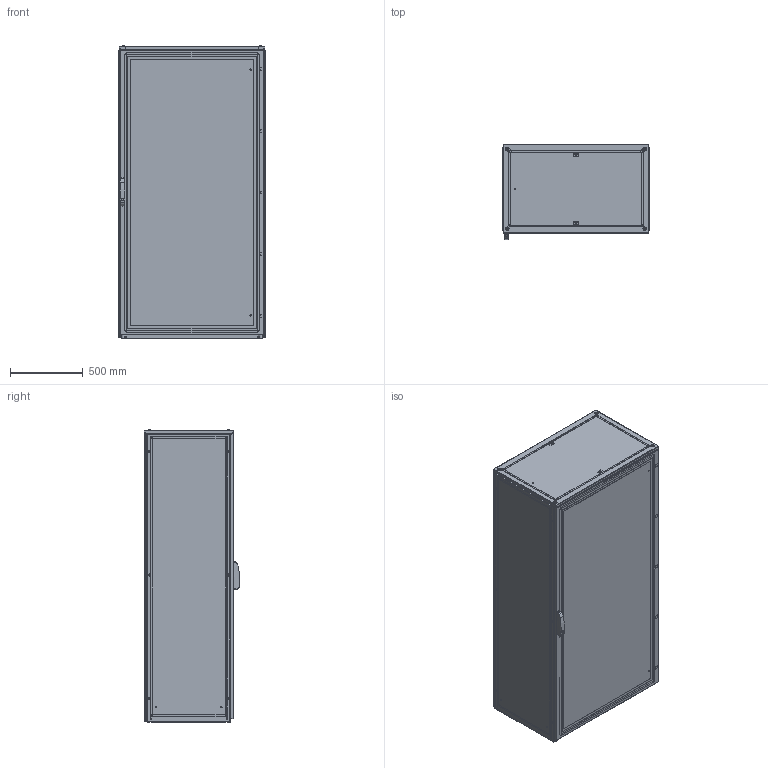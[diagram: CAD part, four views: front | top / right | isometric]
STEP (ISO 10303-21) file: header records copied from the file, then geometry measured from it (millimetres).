
FILE_DESCRIPTION(/* description */ ('STEP AP214'),/* implementation_level */ '2;1');
FILE_NAME(/* name */ 'ENUX102006PR-LOD350',/* time_stamp */ '2025-10-03T14:42:38+02:00',/* author */ ('License CC BY-ND 4.0'),/* organization */ ('CADENAS'),/* preprocessor_version */ 'ST-DEVELOPER v19.3',/* originating_system */ 'PARTsolutions',/* authorisation */ ' ');
FILE_SCHEMA (('AUTOMOTIVE_DESIGN {1 0 10303 214 3 1 1}'));
Length unit declared in the file: millimetre
Products named in the file (11): ENUX102006PR-LOD350; ENUX102006PR-LOD350_CON; ENUX102006PR-LOD350_floor1; ENUX102006PR-LOD350_floor2; Screw M12x30 architecture 350; ENUX102006PR-LOD350_side; ENUX102006PR-LOD350_top; ENUX102006PR-LOD350_back_door_r; ENUX102006PR-LOD350_back_door_l; ENUX102006PR-LOD350_door; ENUX102006PR-LOD350_handle
Assembly tree (22 placements, depth 2):
  ENUX102006PR-LOD350
    ENUX102006PR-LOD350_CON
    ENUX102006PR-LOD350_floor1  x4
    ENUX102006PR-LOD350_floor2  x6
    Screw M12x30 architecture 350  x4
    ENUX102006PR-LOD350_side  x2
    ENUX102006PR-LOD350_top
    ENUX102006PR-LOD350_back_door_r
    ENUX102006PR-LOD350_back_door_l
    ENUX102006PR-LOD350_door
    ENUX102006PR-LOD350_handle
Bounding box: 1012 x 657 x 2014.1 mm (x, y, z)
Volume: 26532003.7 mm3; surface area: 22144147.9 mm2
Topology: 22 solids, 22 shells, 2323 faces, 6464 edges, 4213 vertices
Faces by surface type: plane 1203, cylinder 920, cone 95, torus 88, sphere 17
Full cylindrical faces by diameter (mm): 4.5 x156, 6 x20, 6.8 x8, 7 x4, 9 x11, 12 x16, 13 x4, 14 x2, 17 x2, 18 x1, 21 x4, 28 x2
Entity records: 56569 total; most frequent: DIRECTION 9817, CARTESIAN_POINT 9759, ORIENTED_EDGE 9140, EDGE_CURVE 4570, AXIS2_PLACEMENT_3D 3523, VERTEX_POINT 3208, LINE 2771, VECTOR 2771
